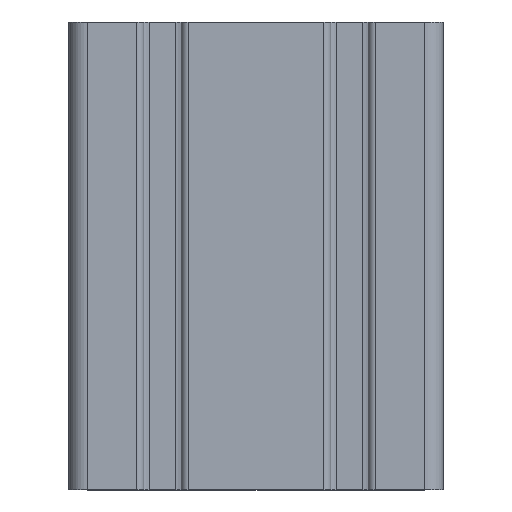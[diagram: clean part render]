
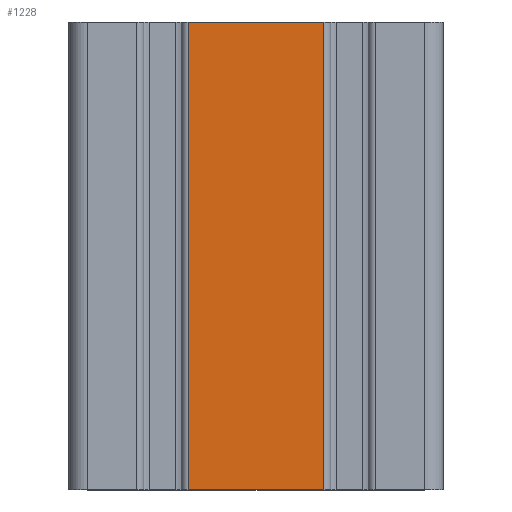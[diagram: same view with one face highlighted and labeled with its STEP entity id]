
A CAD part, top view. The second image highlights one B-rep face of the part: STEP entity #1228.
In plain terms, the highlighted planar face has unit normal (0, 0, 1).
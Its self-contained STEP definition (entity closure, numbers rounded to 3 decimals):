
#21 = AXIS2_PLACEMENT_3D ( 'NONE', #1671, #353, #1084 ) ;
#30 = EDGE_CURVE ( 'NONE', #1455, #958, #1015, .T. ) ;
#45 = ORIENTED_EDGE ( 'NONE', *, *, #30, .F. ) ;
#113 = VERTEX_POINT ( 'NONE', #542 ) ;
#160 = VERTEX_POINT ( 'NONE', #1779 ) ;
#164 = LINE ( 'NONE', #587, #1575 ) ;
#220 = LINE ( 'NONE', #359, #1360 ) ;
#268 = ORIENTED_EDGE ( 'NONE', *, *, #1520, .F. ) ;
#279 = CARTESIAN_POINT ( 'NONE',  ( -14.5, 50., 8. ) ) ;
#283 = LINE ( 'NONE', #1292, #1122 ) ;
#353 = DIRECTION ( 'NONE',  ( 0., 0., -1. ) ) ;
#359 = CARTESIAN_POINT ( 'NONE',  ( -14.5, -50., 8. ) ) ;
#542 = CARTESIAN_POINT ( 'NONE',  ( 14.5, -50., 8. ) ) ;
#587 = CARTESIAN_POINT ( 'NONE',  ( 14.5, 50., 8. ) ) ;
#695 = DIRECTION ( 'NONE',  ( 1., 0., 0. ) ) ;
#778 = FACE_OUTER_BOUND ( 'NONE', #1330, .T. ) ;
#834 = EDGE_CURVE ( 'NONE', #1455, #160, #283, .T. ) ;
#905 = ORIENTED_EDGE ( 'NONE', *, *, #1659, .T. ) ;
#958 = VERTEX_POINT ( 'NONE', #1734 ) ;
#1015 = LINE ( 'NONE', #279, #1309 ) ;
#1061 = ORIENTED_EDGE ( 'NONE', *, *, #834, .T. ) ;
#1084 = DIRECTION ( 'NONE',  ( -1., 0., 0. ) ) ;
#1122 = VECTOR ( 'NONE', #1623, 1000. ) ;
#1164 = DIRECTION ( 'NONE',  ( 0., -1., 0. ) ) ;
#1228 = ADVANCED_FACE ( 'NONE', ( #778 ), #1373, .F. ) ;
#1292 = CARTESIAN_POINT ( 'NONE',  ( -14.5, 50., 8. ) ) ;
#1309 = VECTOR ( 'NONE', #695, 1000. ) ;
#1330 = EDGE_LOOP ( 'NONE', ( #905, #268, #45, #1061 ) ) ;
#1360 = VECTOR ( 'NONE', #1361, 1000. ) ;
#1361 = DIRECTION ( 'NONE',  ( 1., 0., 0. ) ) ;
#1373 = PLANE ( 'NONE',  #21 ) ;
#1455 = VERTEX_POINT ( 'NONE', #1586 ) ;
#1520 = EDGE_CURVE ( 'NONE', #958, #113, #164, .T. ) ;
#1575 = VECTOR ( 'NONE', #1164, 1000. ) ;
#1586 = CARTESIAN_POINT ( 'NONE',  ( -14.5, 50., 8. ) ) ;
#1623 = DIRECTION ( 'NONE',  ( 0., -1., 0. ) ) ;
#1659 = EDGE_CURVE ( 'NONE', #160, #113, #220, .T. ) ;
#1671 = CARTESIAN_POINT ( 'NONE',  ( -14.5, 50., 8. ) ) ;
#1734 = CARTESIAN_POINT ( 'NONE',  ( 14.5, 50., 8. ) ) ;
#1779 = CARTESIAN_POINT ( 'NONE',  ( -14.5, -50., 8. ) ) ;
